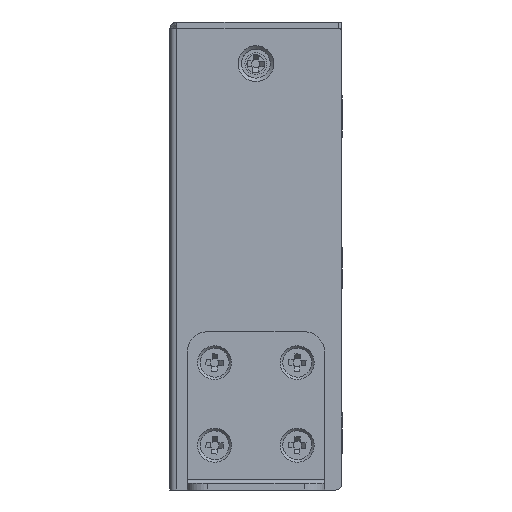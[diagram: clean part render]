
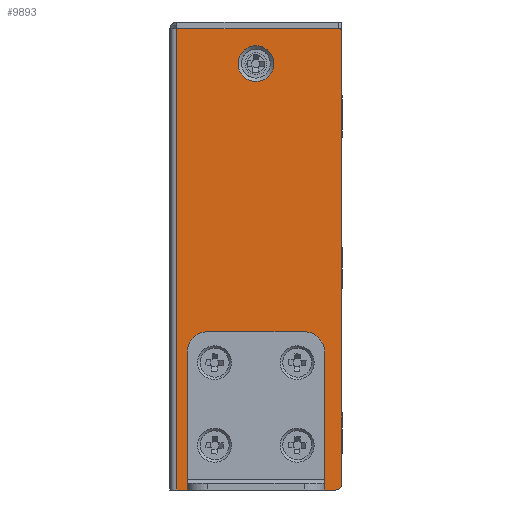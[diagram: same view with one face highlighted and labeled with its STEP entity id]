
A CAD part, left-side view. The second image highlights one B-rep face of the part: STEP entity #9893.
In plain terms, the highlighted planar face has unit normal (-1, 0, 0).
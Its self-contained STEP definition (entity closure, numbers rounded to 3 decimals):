
#592=FACE_BOUND('',#2017,.T.);
#593=FACE_BOUND('',#2018,.T.);
#594=FACE_BOUND('',#2019,.T.);
#595=FACE_BOUND('',#2020,.T.);
#596=FACE_BOUND('',#2021,.T.);
#597=FACE_BOUND('',#2022,.T.);
#714=B_SPLINE_CURVE_WITH_KNOTS('',3,(#14620,#14621,#14622,#14623),
 .UNSPECIFIED.,.F.,.F.,(4,4),(0.,1.),.UNSPECIFIED.);
#795=CIRCLE('',#10588,1.);
#796=CIRCLE('',#10589,1.25);
#797=CIRCLE('',#10590,1.25);
#798=CIRCLE('',#10591,1.25);
#799=CIRCLE('',#10592,2.6);
#800=CIRCLE('',#10593,2.6);
#801=CIRCLE('',#10594,1.25);
#1471=FACE_OUTER_BOUND('',#2016,.T.);
#2016=EDGE_LOOP('',(#6810,#6811,#6812,#6813,#6814,#6815));
#2017=EDGE_LOOP('',(#6816));
#2018=EDGE_LOOP('',(#6817));
#2019=EDGE_LOOP('',(#6818));
#2020=EDGE_LOOP('',(#6819));
#2021=EDGE_LOOP('',(#6820));
#2022=EDGE_LOOP('',(#6821));
#2682=LINE('',#14597,#3577);
#2687=LINE('',#14608,#3582);
#2689=LINE('',#14632,#3584);
#2690=LINE('',#14635,#3585);
#3577=VECTOR('',#11630,67.);
#3582=VECTOR('',#11641,23.5);
#3584=VECTOR('',#11645,23.);
#3585=VECTOR('',#11648,65.5);
#4472=VERTEX_POINT('',#14594);
#4473=VERTEX_POINT('',#14596);
#4475=VERTEX_POINT('',#14604);
#4477=VERTEX_POINT('',#14619);
#4479=VERTEX_POINT('',#14631);
#4480=VERTEX_POINT('',#14633);
#4481=VERTEX_POINT('',#14636);
#4482=VERTEX_POINT('',#14638);
#4483=VERTEX_POINT('',#14640);
#4484=VERTEX_POINT('',#14642);
#4485=VERTEX_POINT('',#14644);
#4486=VERTEX_POINT('',#14646);
#5373=EDGE_CURVE('',#4473,#4472,#2682,.T.);
#5379=EDGE_CURVE('',#4473,#4475,#2687,.T.);
#5380=EDGE_CURVE('',#4475,#4477,#714,.T.);
#5383=EDGE_CURVE('',#4479,#4472,#2689,.T.);
#5384=EDGE_CURVE('',#4480,#4479,#795,.T.);
#5385=EDGE_CURVE('',#4477,#4480,#2690,.T.);
#5386=EDGE_CURVE('',#4481,#4481,#796,.T.);
#5387=EDGE_CURVE('',#4482,#4482,#797,.T.);
#5388=EDGE_CURVE('',#4483,#4483,#798,.T.);
#5389=EDGE_CURVE('',#4484,#4484,#799,.T.);
#5390=EDGE_CURVE('',#4485,#4485,#800,.T.);
#5391=EDGE_CURVE('',#4486,#4486,#801,.T.);
#6810=ORIENTED_EDGE('',*,*,#5380,.F.);
#6811=ORIENTED_EDGE('',*,*,#5379,.F.);
#6812=ORIENTED_EDGE('',*,*,#5373,.T.);
#6813=ORIENTED_EDGE('',*,*,#5383,.F.);
#6814=ORIENTED_EDGE('',*,*,#5384,.F.);
#6815=ORIENTED_EDGE('',*,*,#5385,.F.);
#6816=ORIENTED_EDGE('',*,*,#5386,.F.);
#6817=ORIENTED_EDGE('',*,*,#5387,.F.);
#6818=ORIENTED_EDGE('',*,*,#5388,.F.);
#6819=ORIENTED_EDGE('',*,*,#5389,.F.);
#6820=ORIENTED_EDGE('',*,*,#5390,.F.);
#6821=ORIENTED_EDGE('',*,*,#5391,.F.);
#9594=PLANE('',#10587);
#9893=ADVANCED_FACE('',(#1471,#592,#593,#594,#595,#596,#597),#9594,.T.);
#10587=AXIS2_PLACEMENT_3D('',#14630,#11643,#11644);
#10588=AXIS2_PLACEMENT_3D('',#14634,#11646,#11647);
#10589=AXIS2_PLACEMENT_3D('',#14637,#11649,#11650);
#10590=AXIS2_PLACEMENT_3D('',#14639,#11651,#11652);
#10591=AXIS2_PLACEMENT_3D('',#14641,#11653,#11654);
#10592=AXIS2_PLACEMENT_3D('',#14643,#11655,#11656);
#10593=AXIS2_PLACEMENT_3D('',#14645,#11657,#11658);
#10594=AXIS2_PLACEMENT_3D('',#14647,#11659,#11660);
#11630=DIRECTION('',(0.,0.,-1.));
#11641=DIRECTION('',(0.,-1.,0.));
#11643=DIRECTION('center_axis',(-1.,0.,0.));
#11644=DIRECTION('ref_axis',(0.,0.,-1.));
#11645=DIRECTION('',(0.,1.,0.));
#11646=DIRECTION('center_axis',(1.,0.,0.));
#11647=DIRECTION('ref_axis',(0.,-1.,0.));
#11648=DIRECTION('',(0.,0.,-1.));
#11649=DIRECTION('center_axis',(-1.,0.,0.));
#11650=DIRECTION('ref_axis',(0.,0.,-1.));
#11651=DIRECTION('center_axis',(-1.,0.,0.));
#11652=DIRECTION('ref_axis',(0.,0.,-1.));
#11653=DIRECTION('center_axis',(-1.,0.,0.));
#11654=DIRECTION('ref_axis',(0.,0.,-1.));
#11655=DIRECTION('center_axis',(-1.,0.,0.));
#11656=DIRECTION('ref_axis',(0.,0.,1.));
#11657=DIRECTION('center_axis',(-1.,0.,0.));
#11658=DIRECTION('ref_axis',(0.,0.,1.));
#11659=DIRECTION('center_axis',(-1.,0.,0.));
#11660=DIRECTION('ref_axis',(0.,0.,-1.));
#14594=CARTESIAN_POINT('',(-80.5,24.,-34.));
#14596=CARTESIAN_POINT('',(-80.5,24.,33.));
#14597=CARTESIAN_POINT('',(-80.5,24.,33.));
#14604=CARTESIAN_POINT('',(-80.5,0.5,33.));
#14608=CARTESIAN_POINT('',(-80.5,24.,33.));
#14619=CARTESIAN_POINT('',(-80.5,0.,32.5));
#14620=CARTESIAN_POINT('Ctrl Pts',(-80.5,0.5,33.));
#14621=CARTESIAN_POINT('Ctrl Pts',(-80.5,0.167,33.));
#14622=CARTESIAN_POINT('Ctrl Pts',(-80.5,0.,32.833));
#14623=CARTESIAN_POINT('Ctrl Pts',(-80.5,0.,32.5));
#14630=CARTESIAN_POINT('Origin',(-80.5,25.,-34.));
#14631=CARTESIAN_POINT('',(-80.5,1.,-34.));
#14632=CARTESIAN_POINT('',(-80.5,1.,-34.));
#14633=CARTESIAN_POINT('',(-80.5,0.,-33.));
#14634=CARTESIAN_POINT('Origin',(-80.5,1.,-33.));
#14635=CARTESIAN_POINT('',(-80.5,0.,32.5));
#14636=CARTESIAN_POINT('',(-80.5,6.5,-16.75));
#14637=CARTESIAN_POINT('Origin',(-80.5,6.5,-15.5));
#14638=CARTESIAN_POINT('',(-80.5,18.5,-28.75));
#14639=CARTESIAN_POINT('Origin',(-80.5,18.5,-27.5));
#14640=CARTESIAN_POINT('',(-80.5,6.5,-28.75));
#14641=CARTESIAN_POINT('Origin',(-80.5,6.5,-27.5));
#14642=CARTESIAN_POINT('',(-80.5,12.5,-25.35));
#14643=CARTESIAN_POINT('Origin',(-80.5,12.5,-27.95));
#14644=CARTESIAN_POINT('',(-80.5,12.5,30.55));
#14645=CARTESIAN_POINT('Origin',(-80.5,12.5,27.95));
#14646=CARTESIAN_POINT('',(-80.5,18.5,-16.75));
#14647=CARTESIAN_POINT('Origin',(-80.5,18.5,-15.5));
